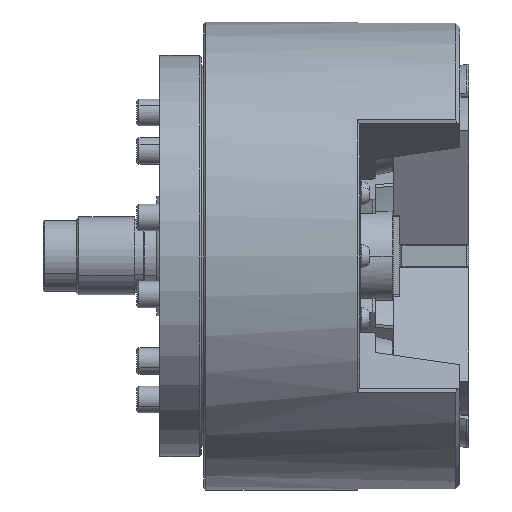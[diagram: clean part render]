
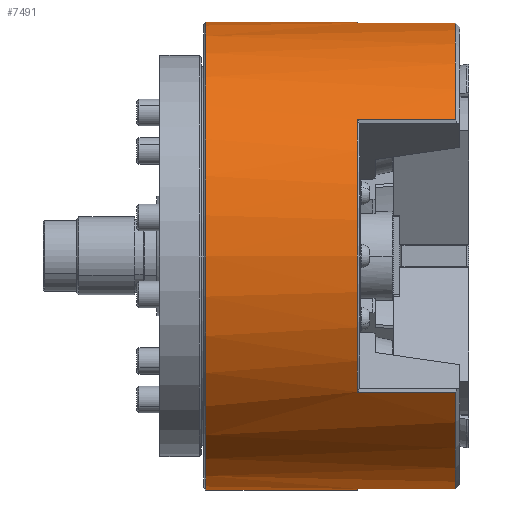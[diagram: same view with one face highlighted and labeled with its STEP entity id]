
A CAD part, front view. The second image highlights one B-rep face of the part: STEP entity #7491.
In plain terms, the highlighted cylindrical face has radius 105 mm (diameter 210 mm), a partial arc.
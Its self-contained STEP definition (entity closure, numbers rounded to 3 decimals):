
#276 = AXIS2_PLACEMENT_3D ( 'NONE', #24251, #7540, #27095 ) ;
#903 = EDGE_CURVE ( 'NONE', #3806, #32303, #20264, .T. ) ;
#1181 = CARTESIAN_POINT ( 'NONE',  ( 43.5, -10.142, 104.509 ) ) ;
#1338 = AXIS2_PLACEMENT_3D ( 'NONE', #25892, #9168, #28723 ) ;
#2226 = CARTESIAN_POINT ( 'NONE',  ( -0.486, 0., 0. ) ) ;
#3806 = VERTEX_POINT ( 'NONE', #22115 ) ;
#4444 = VERTEX_POINT ( 'NONE', #14481 ) ;
#4626 = CARTESIAN_POINT ( 'NONE',  ( 63.843, -85.436, -61.038 ) ) ;
#4854 = CARTESIAN_POINT ( 'NONE',  ( 63.843, 0., 105. ) ) ;
#5011 = DIRECTION ( 'NONE',  ( 0., 0., -1. ) ) ;
#5251 = ORIENTED_EDGE ( 'NONE', *, *, #15102, .F. ) ;
#5448 = VERTEX_POINT ( 'NONE', #25850 ) ;
#5929 = CARTESIAN_POINT ( 'NONE',  ( 63.843, 0., -105. ) ) ;
#6781 = LINE ( 'NONE', #4626, #28218 ) ;
#7020 = VERTEX_POINT ( 'NONE', #35709 ) ;
#7491 = ADVANCED_FACE ( 'NONE', ( #12162 ), #33589, .T. ) ;
#7540 = DIRECTION ( 'NONE',  ( 1., 0., 0. ) ) ;
#7601 = VERTEX_POINT ( 'NONE', #10768 ) ;
#7707 = ORIENTED_EDGE ( 'NONE', *, *, #32105, .T. ) ;
#8678 = CARTESIAN_POINT ( 'NONE',  ( 43.5, -85.436, 61.038 ) ) ;
#8779 = LINE ( 'NONE', #32222, #15333 ) ;
#8927 = DIRECTION ( 'NONE',  ( -1., 0., 0. ) ) ;
#9168 = DIRECTION ( 'NONE',  ( -1., 0., 0. ) ) ;
#9335 = ORIENTED_EDGE ( 'NONE', *, *, #12940, .T. ) ;
#10050 = CARTESIAN_POINT ( 'NONE',  ( 63.843, -10.142, -104.509 ) ) ;
#10162 = VERTEX_POINT ( 'NONE', #23815 ) ;
#10768 = CARTESIAN_POINT ( 'NONE',  ( -0.486, -10.142, 104.509 ) ) ;
#11367 = CARTESIAN_POINT ( 'NONE',  ( -0.486, 0., 105. ) ) ;
#11486 = ORIENTED_EDGE ( 'NONE', *, *, #24924, .T. ) ;
#11645 = DIRECTION ( 'NONE',  ( 1., 0., 0. ) ) ;
#12162 = FACE_OUTER_BOUND ( 'NONE', #30131, .T. ) ;
#12649 = DIRECTION ( 'NONE',  ( -1., 0., 0. ) ) ;
#12849 = DIRECTION ( 'NONE',  ( 0., 0., -1. ) ) ;
#12855 = DIRECTION ( 'NONE',  ( 1., 0., 0. ) ) ;
#12875 = VERTEX_POINT ( 'NONE', #1181 ) ;
#12940 = EDGE_CURVE ( 'NONE', #12875, #7601, #8779, .T. ) ;
#13059 = ORIENTED_EDGE ( 'NONE', *, *, #30968, .F. ) ;
#13819 = VECTOR ( 'NONE', #12855, 1000. ) ;
#13979 = AXIS2_PLACEMENT_3D ( 'NONE', #2226, #21783, #5011 ) ;
#14113 = EDGE_CURVE ( 'NONE', #10162, #35269, #21809, .T. ) ;
#14481 = CARTESIAN_POINT ( 'NONE',  ( -68.5, 0., -105. ) ) ;
#14841 = EDGE_CURVE ( 'NONE', #7601, #35804, #17374, .T. ) ;
#15102 = EDGE_CURVE ( 'NONE', #7020, #35804, #19533, .T. ) ;
#15333 = VECTOR ( 'NONE', #12649, 1000. ) ;
#15353 = VECTOR ( 'NONE', #20902, 1000. ) ;
#15780 = DIRECTION ( 'NONE',  ( 1., 0., 0. ) ) ;
#16066 = CIRCLE ( 'NONE', #31967, 105. ) ;
#16420 = ORIENTED_EDGE ( 'NONE', *, *, #14113, .F. ) ;
#16596 = DIRECTION ( 'NONE',  ( 1., 0., 0. ) ) ;
#16870 = VERTEX_POINT ( 'NONE', #33031 ) ;
#17374 = CIRCLE ( 'NONE', #1338, 105. ) ;
#18717 = ORIENTED_EDGE ( 'NONE', *, *, #19777, .T. ) ;
#19533 = LINE ( 'NONE', #4854, #25222 ) ;
#19777 = EDGE_CURVE ( 'NONE', #4444, #5448, #34596, .T. ) ;
#20264 = LINE ( 'NONE', #33566, #15353 ) ;
#20458 = CARTESIAN_POINT ( 'NONE',  ( -0.486, -10.142, -104.509 ) ) ;
#20538 = ORIENTED_EDGE ( 'NONE', *, *, #22854, .T. ) ;
#20747 = CIRCLE ( 'NONE', #13979, 105. ) ;
#20902 = DIRECTION ( 'NONE',  ( 1., 0., 0. ) ) ;
#21190 = CARTESIAN_POINT ( 'NONE',  ( 43.5, -10.142, -104.509 ) ) ;
#21413 = DIRECTION ( 'NONE',  ( -1., 0., 0. ) ) ;
#21783 = DIRECTION ( 'NONE',  ( -1., 0., 0. ) ) ;
#21809 = CIRCLE ( 'NONE', #31566, 105. ) ;
#22115 = CARTESIAN_POINT ( 'NONE',  ( -0.486, -85.436, 61.038 ) ) ;
#22854 = EDGE_CURVE ( 'NONE', #7020, #4444, #16066, .T. ) ;
#23237 = VECTOR ( 'NONE', #25483, 1000. ) ;
#23815 = CARTESIAN_POINT ( 'NONE',  ( 43.5, -85.436, -61.038 ) ) ;
#24251 = CARTESIAN_POINT ( 'NONE',  ( 43.5, 0., 0. ) ) ;
#24412 = DIRECTION ( 'NONE',  ( 1., 0., 0. ) ) ;
#24924 = EDGE_CURVE ( 'NONE', #10162, #16870, #6781, .T. ) ;
#25029 = EDGE_CURVE ( 'NONE', #5448, #31617, #20747, .T. ) ;
#25222 = VECTOR ( 'NONE', #24412, 1000. ) ;
#25483 = DIRECTION ( 'NONE',  ( 1., 0., 0. ) ) ;
#25666 = CARTESIAN_POINT ( 'NONE',  ( -0.486, 0., 0. ) ) ;
#25850 = CARTESIAN_POINT ( 'NONE',  ( -0.486, 0., -105. ) ) ;
#25892 = CARTESIAN_POINT ( 'NONE',  ( -0.486, 0., 0. ) ) ;
#26915 = CARTESIAN_POINT ( 'NONE',  ( 63.843, 0., 0. ) ) ;
#27025 = AXIS2_PLACEMENT_3D ( 'NONE', #26915, #15780, #12849 ) ;
#27038 = ORIENTED_EDGE ( 'NONE', *, *, #30153, .T. ) ;
#27095 = DIRECTION ( 'NONE',  ( 0., 0., -1. ) ) ;
#28218 = VECTOR ( 'NONE', #21413, 1000. ) ;
#28380 = CARTESIAN_POINT ( 'NONE',  ( -68.5, 0., 0. ) ) ;
#28482 = DIRECTION ( 'NONE',  ( 0., 0., -1. ) ) ;
#28723 = DIRECTION ( 'NONE',  ( 0., 0., -1. ) ) ;
#30131 = EDGE_LOOP ( 'NONE', ( #5251, #20538, #18717, #31081, #7707, #16420, #11486, #27038, #32605, #13059, #9335, #36122 ) ) ;
#30153 = EDGE_CURVE ( 'NONE', #16870, #3806, #30593, .T. ) ;
#30593 = CIRCLE ( 'NONE', #32342, 105. ) ;
#30968 = EDGE_CURVE ( 'NONE', #12875, #32303, #33568, .T. ) ;
#31081 = ORIENTED_EDGE ( 'NONE', *, *, #25029, .T. ) ;
#31240 = DIRECTION ( 'NONE',  ( 0., 0., -1. ) ) ;
#31566 = AXIS2_PLACEMENT_3D ( 'NONE', #33361, #16596, #36103 ) ;
#31617 = VERTEX_POINT ( 'NONE', #20458 ) ;
#31967 = AXIS2_PLACEMENT_3D ( 'NONE', #28380, #11645, #31240 ) ;
#32105 = EDGE_CURVE ( 'NONE', #31617, #35269, #35216, .T. ) ;
#32222 = CARTESIAN_POINT ( 'NONE',  ( 63.843, -10.142, 104.509 ) ) ;
#32303 = VERTEX_POINT ( 'NONE', #8678 ) ;
#32342 = AXIS2_PLACEMENT_3D ( 'NONE', #25666, #8927, #28482 ) ;
#32605 = ORIENTED_EDGE ( 'NONE', *, *, #903, .T. ) ;
#33031 = CARTESIAN_POINT ( 'NONE',  ( -0.486, -85.436, -61.038 ) ) ;
#33361 = CARTESIAN_POINT ( 'NONE',  ( 43.5, 0., 0. ) ) ;
#33566 = CARTESIAN_POINT ( 'NONE',  ( 63.843, -85.436, 61.038 ) ) ;
#33568 = CIRCLE ( 'NONE', #276, 105. ) ;
#33589 = CYLINDRICAL_SURFACE ( 'NONE', #27025, 105. ) ;
#34596 = LINE ( 'NONE', #5929, #23237 ) ;
#35216 = LINE ( 'NONE', #10050, #13819 ) ;
#35269 = VERTEX_POINT ( 'NONE', #21190 ) ;
#35709 = CARTESIAN_POINT ( 'NONE',  ( -68.5, 0., 105. ) ) ;
#35804 = VERTEX_POINT ( 'NONE', #11367 ) ;
#36103 = DIRECTION ( 'NONE',  ( 0., 0., -1. ) ) ;
#36122 = ORIENTED_EDGE ( 'NONE', *, *, #14841, .T. ) ;
